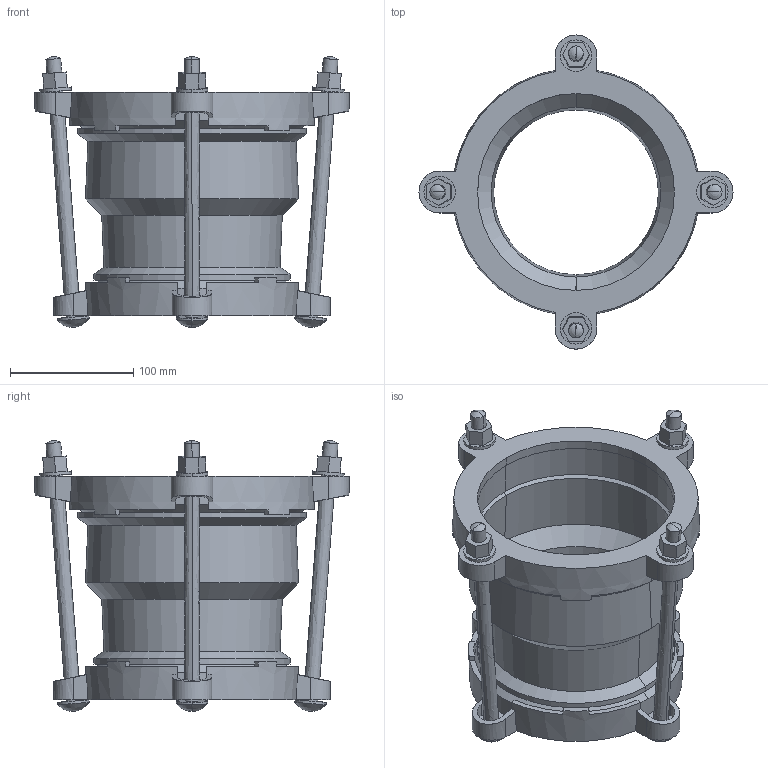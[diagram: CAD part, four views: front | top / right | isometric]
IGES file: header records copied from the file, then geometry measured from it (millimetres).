
Start section:  PTC IGES file: stepped_maxifit_132-132.igs
Global section: file name: stepped_maxifit_132-132.igs; native system: Creo Parametric by PTC Inc.; preprocessor: 2016130; author: MReader; organization: Unknown; date: 20181010.100750; units: millimetre
Bounding box: 254.5 x 254.5 x 219.35 mm (x, y, z)
Surface area: 316153.6 mm2 (no closed solid volume)
Topology: 0 solids, 0 shells, 282 faces, 1448 edges, 1432 vertices
Faces by surface type: revolution 160, bspline 122
